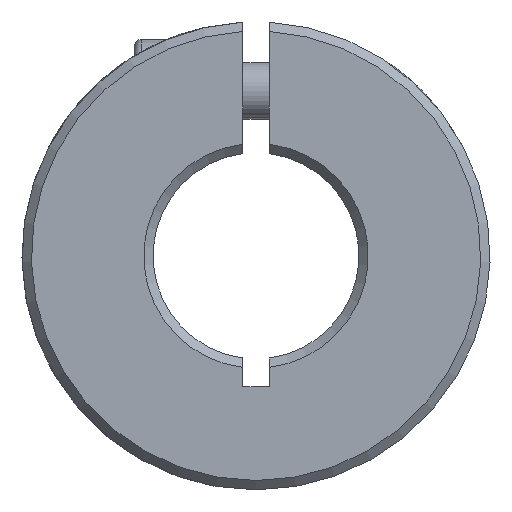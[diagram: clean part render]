
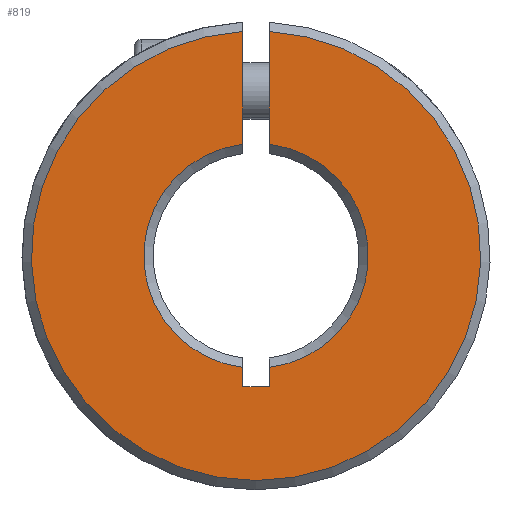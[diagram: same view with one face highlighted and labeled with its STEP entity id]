
A CAD part, front view. The second image highlights one B-rep face of the part: STEP entity #819.
In plain terms, the highlighted planar face has unit normal (0, -1, 0).
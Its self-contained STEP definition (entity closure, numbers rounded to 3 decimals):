
#21 = AXIS2_PLACEMENT_3D ( 'NONE', #2921, #2857, #1229 ) ;
#116 = EDGE_CURVE ( 'NONE', #4784, #2579, #1728, .T. ) ;
#122 = ORIENTED_EDGE ( 'NONE', *, *, #1775, .F. ) ;
#136 = CARTESIAN_POINT ( 'NONE',  ( 0.7, 0.25, -5.959 ) ) ;
#262 = CIRCLE ( 'NONE', #5268, 6. ) ;
#356 = ORIENTED_EDGE ( 'NONE', *, *, #4251, .F. ) ;
#395 = DIRECTION ( 'NONE',  ( 0., 0., -1. ) ) ;
#516 = AXIS2_PLACEMENT_3D ( 'NONE', #1021, #1339, #4703 ) ;
#518 = CARTESIAN_POINT ( 'NONE',  ( 0.7, 0.25, -7. ) ) ;
#527 = PLANE ( 'NONE',  #516 ) ;
#559 = EDGE_CURVE ( 'NONE', #4775, #2062, #4894, .T. ) ;
#608 = DIRECTION ( 'NONE',  ( 0., 1., 0. ) ) ;
#688 = EDGE_CURVE ( 'NONE', #4106, #2579, #262, .T. ) ;
#733 = CARTESIAN_POINT ( 'NONE',  ( -0.7, 0.25, -5.959 ) ) ;
#819 = ADVANCED_FACE ( 'NONE', ( #5141 ), #527, .F. ) ;
#854 = ORIENTED_EDGE ( 'NONE', *, *, #116, .F. ) ;
#920 = CARTESIAN_POINT ( 'NONE',  ( -0.7, 0.25, -7. ) ) ;
#1021 = CARTESIAN_POINT ( 'NONE',  ( 12.5, 0.25, -50. ) ) ;
#1190 = CARTESIAN_POINT ( 'NONE',  ( -0.7, 0.25, -7. ) ) ;
#1229 = DIRECTION ( 'NONE',  ( 0., 0., 1. ) ) ;
#1298 = CIRCLE ( 'NONE', #1995, 6. ) ;
#1339 = DIRECTION ( 'NONE',  ( 0., 1., 0. ) ) ;
#1353 = EDGE_CURVE ( 'NONE', #4784, #3355, #4003, .T. ) ;
#1481 = CARTESIAN_POINT ( 'NONE',  ( 0.7, 0.25, -7. ) ) ;
#1526 = VERTEX_POINT ( 'NONE', #3866 ) ;
#1646 = CARTESIAN_POINT ( 'NONE',  ( 0.7, 0.25, 11.98 ) ) ;
#1728 = LINE ( 'NONE', #920, #3118 ) ;
#1740 = DIRECTION ( 'NONE',  ( 0., 0., 1. ) ) ;
#1775 = EDGE_CURVE ( 'NONE', #3600, #4775, #5054, .T. ) ;
#1798 = ORIENTED_EDGE ( 'NONE', *, *, #4348, .T. ) ;
#1849 = CARTESIAN_POINT ( 'NONE',  ( 0.7, 0.25, -7. ) ) ;
#1995 = AXIS2_PLACEMENT_3D ( 'NONE', #5138, #608, #2236 ) ;
#2062 = VERTEX_POINT ( 'NONE', #136 ) ;
#2100 = CARTESIAN_POINT ( 'NONE',  ( 0., 0.25, 0. ) ) ;
#2236 = DIRECTION ( 'NONE',  ( 0., 0., 1. ) ) ;
#2268 = ORIENTED_EDGE ( 'NONE', *, *, #688, .T. ) ;
#2456 = LINE ( 'NONE', #4116, #3047 ) ;
#2579 = VERTEX_POINT ( 'NONE', #4721 ) ;
#2605 = VECTOR ( 'NONE', #1740, 1000. ) ;
#2623 = EDGE_LOOP ( 'NONE', ( #356, #1798, #4814, #122, #5209, #2268, #854, #4766 ) ) ;
#2857 = DIRECTION ( 'NONE',  ( 0., -1., 0. ) ) ;
#2921 = CARTESIAN_POINT ( 'NONE',  ( 0., 0.25, 0. ) ) ;
#3047 = VECTOR ( 'NONE', #395, 1000. ) ;
#3055 = CARTESIAN_POINT ( 'NONE',  ( 0.7, 0.25, -7. ) ) ;
#3118 = VECTOR ( 'NONE', #5078, 1000. ) ;
#3245 = CARTESIAN_POINT ( 'NONE',  ( -0.7, 0.25, 11.98 ) ) ;
#3355 = VERTEX_POINT ( 'NONE', #1646 ) ;
#3370 = LINE ( 'NONE', #3055, #2605 ) ;
#3600 = VERTEX_POINT ( 'NONE', #1190 ) ;
#3674 = DIRECTION ( 'NONE',  ( 0., 1., 0. ) ) ;
#3866 = CARTESIAN_POINT ( 'NONE',  ( 0.7, 0.25, 5.959 ) ) ;
#4003 = CIRCLE ( 'NONE', #21, 12. ) ;
#4106 = VERTEX_POINT ( 'NONE', #733 ) ;
#4116 = CARTESIAN_POINT ( 'NONE',  ( -0.7, 0.25, -7. ) ) ;
#4251 = EDGE_CURVE ( 'NONE', #1526, #3355, #3370, .T. ) ;
#4348 = EDGE_CURVE ( 'NONE', #1526, #2062, #1298, .T. ) ;
#4432 = DIRECTION ( 'NONE',  ( 0., 0., 1. ) ) ;
#4703 = DIRECTION ( 'NONE',  ( 0., 0., 1. ) ) ;
#4721 = CARTESIAN_POINT ( 'NONE',  ( -0.7, 0.25, 5.959 ) ) ;
#4766 = ORIENTED_EDGE ( 'NONE', *, *, #1353, .T. ) ;
#4775 = VERTEX_POINT ( 'NONE', #1849 ) ;
#4784 = VERTEX_POINT ( 'NONE', #3245 ) ;
#4814 = ORIENTED_EDGE ( 'NONE', *, *, #559, .F. ) ;
#4832 = EDGE_CURVE ( 'NONE', #4106, #3600, #2456, .T. ) ;
#4872 = VECTOR ( 'NONE', #5105, 1000. ) ;
#4894 = LINE ( 'NONE', #1481, #5313 ) ;
#4920 = DIRECTION ( 'NONE',  ( 0., 0., 1. ) ) ;
#5054 = LINE ( 'NONE', #518, #4872 ) ;
#5078 = DIRECTION ( 'NONE',  ( 0., 0., -1. ) ) ;
#5105 = DIRECTION ( 'NONE',  ( 1., 0., 0. ) ) ;
#5138 = CARTESIAN_POINT ( 'NONE',  ( 0., 0.25, 0. ) ) ;
#5141 = FACE_OUTER_BOUND ( 'NONE', #2623, .T. ) ;
#5209 = ORIENTED_EDGE ( 'NONE', *, *, #4832, .F. ) ;
#5268 = AXIS2_PLACEMENT_3D ( 'NONE', #2100, #3674, #4920 ) ;
#5313 = VECTOR ( 'NONE', #4432, 1000. ) ;
